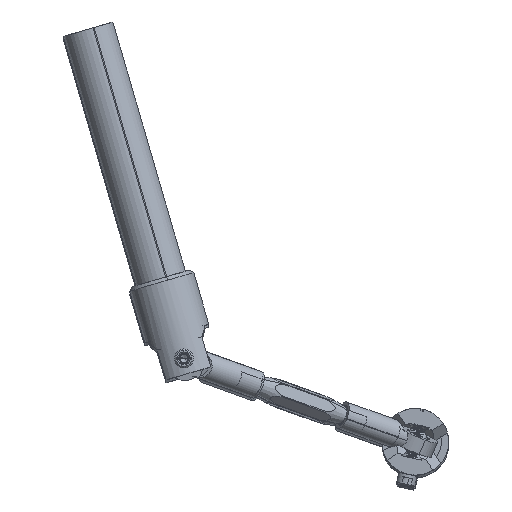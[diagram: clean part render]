
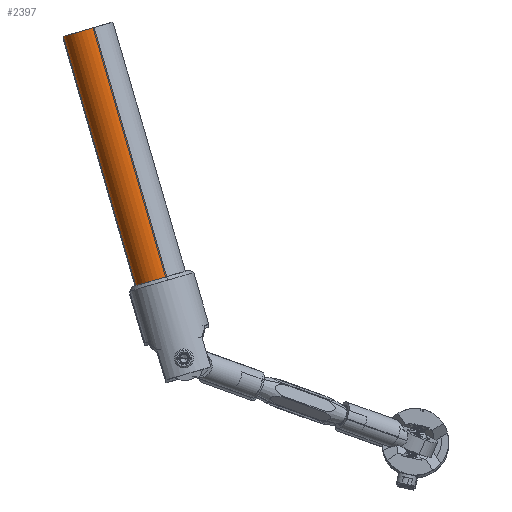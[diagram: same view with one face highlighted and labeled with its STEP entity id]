
A CAD part, top view. The second image highlights one B-rep face of the part: STEP entity #2397.
In plain terms, the highlighted cylindrical face has radius 6.35 mm (diameter 12.7 mm), a partial arc.
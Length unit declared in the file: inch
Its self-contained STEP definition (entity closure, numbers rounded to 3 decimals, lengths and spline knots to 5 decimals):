
#1718 = AXIS2_PLACEMENT_3D ( 'NONE', #12647, #2629, #21057 ) ;
#2397 = ADVANCED_FACE ( 'NONE', ( #16345 ), #23724, .T. ) ;
#2629 = DIRECTION ( 'NONE',  ( 0., 0., 1. ) ) ;
#3202 = VERTEX_POINT ( 'NONE', #4202 ) ;
#3206 = EDGE_CURVE ( 'NONE', #3376, #18655, #10854, .T. ) ;
#3214 = ORIENTED_EDGE ( 'NONE', *, *, #14725, .T. ) ;
#3376 = VERTEX_POINT ( 'NONE', #21283 ) ;
#4202 = CARTESIAN_POINT ( 'NONE',  ( -0.25, 0., 11. ) ) ;
#5022 = VERTEX_POINT ( 'NONE', #17956 ) ;
#5925 = CARTESIAN_POINT ( 'NONE',  ( 0., 0., 14. ) ) ;
#6161 = CARTESIAN_POINT ( 'NONE',  ( -0.25, 0., 14. ) ) ;
#6616 = DIRECTION ( 'NONE',  ( 1., 0., 0. ) ) ;
#7754 = DIRECTION ( 'NONE',  ( -1., 0., 0. ) ) ;
#7910 = EDGE_LOOP ( 'NONE', ( #23287, #10163, #3214, #10153 ) ) ;
#8287 = AXIS2_PLACEMENT_3D ( 'NONE', #10666, #25193, #6616 ) ;
#8516 = VECTOR ( 'NONE', #10406, 39.37008 ) ;
#8950 = CARTESIAN_POINT ( 'NONE',  ( 0.25, 0., 14. ) ) ;
#10153 = ORIENTED_EDGE ( 'NONE', *, *, #26580, .F. ) ;
#10163 = ORIENTED_EDGE ( 'NONE', *, *, #22897, .T. ) ;
#10406 = DIRECTION ( 'NONE',  ( 0., 0., -1. ) ) ;
#10666 = CARTESIAN_POINT ( 'NONE',  ( 0., 0., 14. ) ) ;
#10854 = CIRCLE ( 'NONE', #8287, 0.25 ) ;
#12358 = LINE ( 'NONE', #6161, #8516 ) ;
#12647 = CARTESIAN_POINT ( 'NONE',  ( 0., 0., 11. ) ) ;
#13429 = AXIS2_PLACEMENT_3D ( 'NONE', #5925, #20058, #7754 ) ;
#14725 = EDGE_CURVE ( 'NONE', #5022, #3202, #17519, .T. ) ;
#15150 = DIRECTION ( 'NONE',  ( 0., 0., -1. ) ) ;
#15389 = LINE ( 'NONE', #8950, #22149 ) ;
#16345 = FACE_OUTER_BOUND ( 'NONE', #7910, .T. ) ;
#17519 = CIRCLE ( 'NONE', #1718, 0.25 ) ;
#17956 = CARTESIAN_POINT ( 'NONE',  ( 0.25, 0., 11. ) ) ;
#18655 = VERTEX_POINT ( 'NONE', #23358 ) ;
#20058 = DIRECTION ( 'NONE',  ( 0., 0., -1. ) ) ;
#21057 = DIRECTION ( 'NONE',  ( 1., 0., 0. ) ) ;
#21283 = CARTESIAN_POINT ( 'NONE',  ( 0.25, 0., 14. ) ) ;
#22149 = VECTOR ( 'NONE', #15150, 39.37008 ) ;
#22897 = EDGE_CURVE ( 'NONE', #3376, #5022, #15389, .T. ) ;
#23287 = ORIENTED_EDGE ( 'NONE', *, *, #3206, .F. ) ;
#23358 = CARTESIAN_POINT ( 'NONE',  ( -0.25, 0., 14. ) ) ;
#23724 = CYLINDRICAL_SURFACE ( 'NONE', #13429, 0.25 ) ;
#25193 = DIRECTION ( 'NONE',  ( 0., 0., 1. ) ) ;
#26580 = EDGE_CURVE ( 'NONE', #18655, #3202, #12358, .T. ) ;
